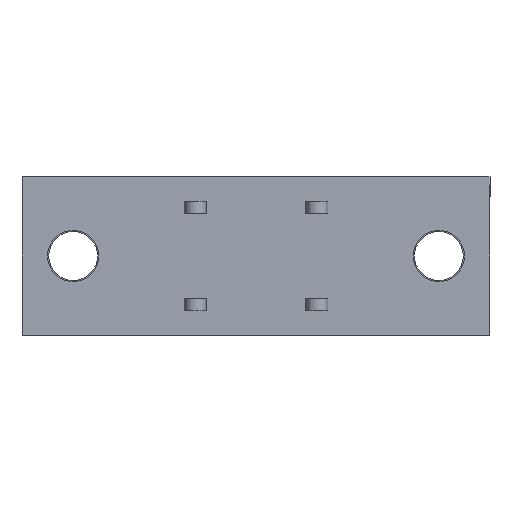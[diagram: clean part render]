
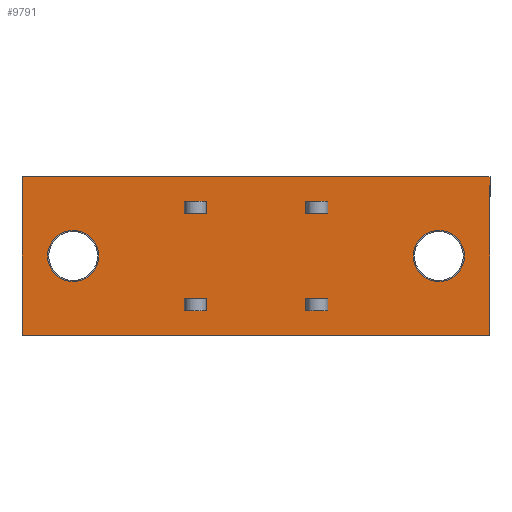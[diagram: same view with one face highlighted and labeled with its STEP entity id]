
A CAD part, front view. The second image highlights one B-rep face of the part: STEP entity #9791.
In plain terms, the highlighted planar face has unit normal (0, -1, 0).
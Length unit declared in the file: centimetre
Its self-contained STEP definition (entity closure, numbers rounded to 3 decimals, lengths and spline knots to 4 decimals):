
#544=VECTOR('',#10888,1.);
#548=VECTOR('',#10893,1.);
#554=VECTOR('',#10903,1.);
#557=VECTOR('',#10909,1.);
#560=VECTOR('',#10913,1.);
#572=VECTOR('',#10949,1.);
#573=VECTOR('',#10951,1.);
#584=VECTOR('',#10967,1.);
#594=VECTOR('',#10982,1.);
#595=VECTOR('',#10983,1.);
#596=VECTOR('',#10984,1.);
#597=VECTOR('',#10985,1.);
#598=VECTOR('',#10988,1.);
#599=VECTOR('',#10989,1.);
#600=VECTOR('',#10990,1.);
#601=VECTOR('',#10991,1.);
#602=VECTOR('',#10992,1.);
#603=VECTOR('',#10993,1.);
#604=VECTOR('',#10994,1.);
#605=VECTOR('',#10995,1.);
#1714=LINE('',#12834,#544);
#1718=LINE('',#12843,#548);
#1724=LINE('',#12858,#554);
#1727=LINE('',#12867,#557);
#1730=LINE('',#12873,#560);
#1742=LINE('',#12908,#572);
#1743=LINE('',#12910,#573);
#1754=LINE('',#12931,#584);
#1764=LINE('',#12952,#594);
#1765=LINE('',#12955,#595);
#1766=LINE('',#12957,#596);
#1767=LINE('',#12959,#597);
#1768=LINE('',#12962,#598);
#1769=LINE('',#12965,#599);
#1770=LINE('',#12967,#600);
#1771=LINE('',#12969,#601);
#1772=LINE('',#12970,#602);
#1773=LINE('',#12973,#603);
#1774=LINE('',#12975,#604);
#1775=LINE('',#12977,#605);
#2904=VERTEX_POINT('',#12835);
#2905=VERTEX_POINT('',#12836);
#2908=VERTEX_POINT('',#12844);
#2914=VERTEX_POINT('',#12859);
#2915=VERTEX_POINT('',#12860);
#2918=VERTEX_POINT('',#12868);
#2920=VERTEX_POINT('',#12874);
#2929=VERTEX_POINT('',#12911);
#2940=VERTEX_POINT('',#12953);
#2941=VERTEX_POINT('',#12954);
#2942=VERTEX_POINT('',#12956);
#2943=VERTEX_POINT('',#12958);
#2944=VERTEX_POINT('',#12961);
#2945=VERTEX_POINT('',#12963);
#2946=VERTEX_POINT('',#12964);
#2947=VERTEX_POINT('',#12966);
#2948=VERTEX_POINT('',#12968);
#2949=VERTEX_POINT('',#12971);
#2950=VERTEX_POINT('',#12972);
#2951=VERTEX_POINT('',#12974);
#2952=VERTEX_POINT('',#12976);
#2953=VERTEX_POINT('',#12979);
#3887=CIRCLE('',#16803,0.21);
#3888=CIRCLE('',#16804,0.21);
#4028=EDGE_CURVE('',#2904,#2905,#1714,.T.);
#4032=EDGE_CURVE('',#2908,#2904,#1718,.T.);
#4039=EDGE_CURVE('',#2914,#2915,#1724,.T.);
#4043=EDGE_CURVE('',#2918,#2914,#1727,.T.);
#4046=EDGE_CURVE('',#2920,#2918,#1730,.T.);
#4064=EDGE_CURVE('',#2915,#2920,#1742,.T.);
#4065=EDGE_CURVE('',#2929,#2908,#1743,.T.);
#4076=EDGE_CURVE('',#2905,#2929,#1754,.T.);
#4086=EDGE_CURVE('',#2940,#2941,#1764,.T.);
#4087=EDGE_CURVE('',#2941,#2942,#1765,.T.);
#4088=EDGE_CURVE('',#2943,#2942,#1766,.T.);
#4089=EDGE_CURVE('',#2943,#2940,#1767,.T.);
#4090=EDGE_CURVE('',#2944,#2944,#3887,.T.);
#4091=EDGE_CURVE('',#2945,#2946,#1768,.T.);
#4092=EDGE_CURVE('',#2947,#2945,#1769,.T.);
#4093=EDGE_CURVE('',#2948,#2947,#1770,.T.);
#4094=EDGE_CURVE('',#2946,#2948,#1771,.T.);
#4095=EDGE_CURVE('',#2949,#2950,#1772,.T.);
#4096=EDGE_CURVE('',#2951,#2949,#1773,.T.);
#4097=EDGE_CURVE('',#2952,#2951,#1774,.T.);
#4098=EDGE_CURVE('',#2950,#2952,#1775,.T.);
#4099=EDGE_CURVE('',#2953,#2953,#3888,.T.);
#5718=ORIENTED_EDGE('',*,*,#4086,.T.);
#5719=ORIENTED_EDGE('',*,*,#4087,.T.);
#5720=ORIENTED_EDGE('',*,*,#4088,.F.);
#5721=ORIENTED_EDGE('',*,*,#4089,.T.);
#5722=ORIENTED_EDGE('',*,*,#4090,.T.);
#5723=ORIENTED_EDGE('',*,*,#4091,.F.);
#5724=ORIENTED_EDGE('',*,*,#4092,.F.);
#5725=ORIENTED_EDGE('',*,*,#4093,.F.);
#5726=ORIENTED_EDGE('',*,*,#4094,.F.);
#5727=ORIENTED_EDGE('',*,*,#4095,.F.);
#5728=ORIENTED_EDGE('',*,*,#4096,.F.);
#5729=ORIENTED_EDGE('',*,*,#4097,.F.);
#5730=ORIENTED_EDGE('',*,*,#4098,.F.);
#5731=ORIENTED_EDGE('',*,*,#4099,.T.);
#5732=ORIENTED_EDGE('',*,*,#4046,.T.);
#5733=ORIENTED_EDGE('',*,*,#4043,.T.);
#5734=ORIENTED_EDGE('',*,*,#4039,.T.);
#5735=ORIENTED_EDGE('',*,*,#4064,.T.);
#5736=ORIENTED_EDGE('',*,*,#4032,.T.);
#5737=ORIENTED_EDGE('',*,*,#4028,.T.);
#5738=ORIENTED_EDGE('',*,*,#4076,.T.);
#5739=ORIENTED_EDGE('',*,*,#4065,.T.);
#8527=EDGE_LOOP('',(#5718,#5719,#5720,#5721));
#8528=EDGE_LOOP('',(#5722));
#8529=EDGE_LOOP('',(#5723,#5724,#5725,#5726));
#8530=EDGE_LOOP('',(#5727,#5728,#5729,#5730));
#8531=EDGE_LOOP('',(#5731));
#8532=EDGE_LOOP('',(#5732,#5733,#5734,#5735));
#8533=EDGE_LOOP('',(#5736,#5737,#5738,#5739));
#9163=FACE_BOUND('',#8527,.T.);
#9164=FACE_BOUND('',#8528,.T.);
#9165=FACE_BOUND('',#8529,.T.);
#9166=FACE_BOUND('',#8530,.T.);
#9167=FACE_BOUND('',#8531,.T.);
#9168=FACE_BOUND('',#8532,.T.);
#9169=FACE_BOUND('',#8533,.T.);
#9791=ADVANCED_FACE('',(#9163,#9164,#9165,#9166,#9167,#9168,#9169),#10351,
 .T.);
#10351=PLANE('',#16802);
#10888=DIRECTION('',(1.,0.,0.));
#10893=DIRECTION('',(0.,0.,1.));
#10903=DIRECTION('',(0.,0.,1.));
#10909=DIRECTION('',(-1.,0.,0.));
#10913=DIRECTION('',(0.,0.,-1.));
#10949=DIRECTION('',(1.,0.,0.));
#10951=DIRECTION('',(-1.,0.,0.));
#10967=DIRECTION('',(0.,0.,-1.));
#10981=DIRECTION('',(0.,-1.,0.));
#10982=DIRECTION('',(0.,0.,1.));
#10983=DIRECTION('',(-1.,0.,0.));
#10984=DIRECTION('',(0.,0.,1.));
#10985=DIRECTION('',(1.,0.,0.));
#10986=DIRECTION('',(0.,1.,0.));
#10987=DIRECTION('',(0.,0.,0.21));
#10988=DIRECTION('',(0.,0.,-1.));
#10989=DIRECTION('',(-1.,0.,0.));
#10990=DIRECTION('',(0.,0.,1.));
#10991=DIRECTION('',(1.,0.,0.));
#10992=DIRECTION('',(0.,0.,1.));
#10993=DIRECTION('',(1.,0.,0.));
#10994=DIRECTION('',(0.,0.,-1.));
#10995=DIRECTION('',(-1.,0.,0.));
#10996=DIRECTION('',(0.,1.,0.));
#10997=DIRECTION('',(0.,0.,0.21));
#12834=CARTESIAN_POINT('',(0.2,-0.95,1.09));
#12835=CARTESIAN_POINT('',(0.35,-0.95,1.09));
#12836=CARTESIAN_POINT('',(0.45,-0.95,1.09));
#12843=CARTESIAN_POINT('',(0.35,-0.95,1.21));
#12844=CARTESIAN_POINT('',(0.35,-0.95,0.91));
#12858=CARTESIAN_POINT('',(-0.45,-0.95,1.21));
#12859=CARTESIAN_POINT('',(-0.45,-0.95,0.91));
#12860=CARTESIAN_POINT('',(-0.45,-0.95,1.09));
#12867=CARTESIAN_POINT('',(-0.2,-0.95,0.91));
#12868=CARTESIAN_POINT('',(-0.35,-0.95,0.91));
#12873=CARTESIAN_POINT('',(-0.35,-0.95,1.21));
#12874=CARTESIAN_POINT('',(-0.35,-0.95,1.09));
#12908=CARTESIAN_POINT('',(-0.2,-0.95,1.09));
#12910=CARTESIAN_POINT('',(0.2,-0.95,0.91));
#12911=CARTESIAN_POINT('',(0.45,-0.95,0.91));
#12931=CARTESIAN_POINT('',(0.45,-0.95,1.21));
#12951=CARTESIAN_POINT('',(0.,-0.95,1.42));
#12952=CARTESIAN_POINT('',(0.65,-0.95,-1.42));
#12953=CARTESIAN_POINT('',(0.65,-0.95,-1.42));
#12954=CARTESIAN_POINT('',(0.65,-0.95,2.42));
#12955=CARTESIAN_POINT('',(-0.65,-0.95,2.42));
#12956=CARTESIAN_POINT('',(-0.65,-0.95,2.42));
#12957=CARTESIAN_POINT('',(-0.65,-0.95,1.42));
#12958=CARTESIAN_POINT('',(-0.65,-0.95,-1.42));
#12959=CARTESIAN_POINT('',(-0.65,-0.95,-1.42));
#12960=CARTESIAN_POINT('',(0.,-0.95,2.));
#12961=CARTESIAN_POINT('',(0.,-0.95,1.79));
#12962=CARTESIAN_POINT('',(0.35,-0.95,-0.21));
#12963=CARTESIAN_POINT('',(0.35,-0.95,0.09));
#12964=CARTESIAN_POINT('',(0.35,-0.95,-0.09));
#12965=CARTESIAN_POINT('',(0.2,-0.95,0.09));
#12966=CARTESIAN_POINT('',(0.45,-0.95,0.09));
#12967=CARTESIAN_POINT('',(0.45,-0.95,-0.21));
#12968=CARTESIAN_POINT('',(0.45,-0.95,-0.09));
#12969=CARTESIAN_POINT('',(0.2,-0.95,-0.09));
#12970=CARTESIAN_POINT('',(-0.35,-0.95,-0.21));
#12971=CARTESIAN_POINT('',(-0.35,-0.95,-0.09));
#12972=CARTESIAN_POINT('',(-0.35,-0.95,0.09));
#12973=CARTESIAN_POINT('',(-0.2,-0.95,-0.09));
#12974=CARTESIAN_POINT('',(-0.45,-0.95,-0.09));
#12975=CARTESIAN_POINT('',(-0.45,-0.95,-0.21));
#12976=CARTESIAN_POINT('',(-0.45,-0.95,0.09));
#12977=CARTESIAN_POINT('',(-0.2,-0.95,0.09));
#12978=CARTESIAN_POINT('',(0.,-0.95,-1.));
#12979=CARTESIAN_POINT('',(0.,-0.95,-1.21));
#16802=AXIS2_PLACEMENT_3D('',#12951,#10981,$);
#16803=AXIS2_PLACEMENT_3D('',#12960,#10986,#10987);
#16804=AXIS2_PLACEMENT_3D('',#12978,#10996,#10997);
